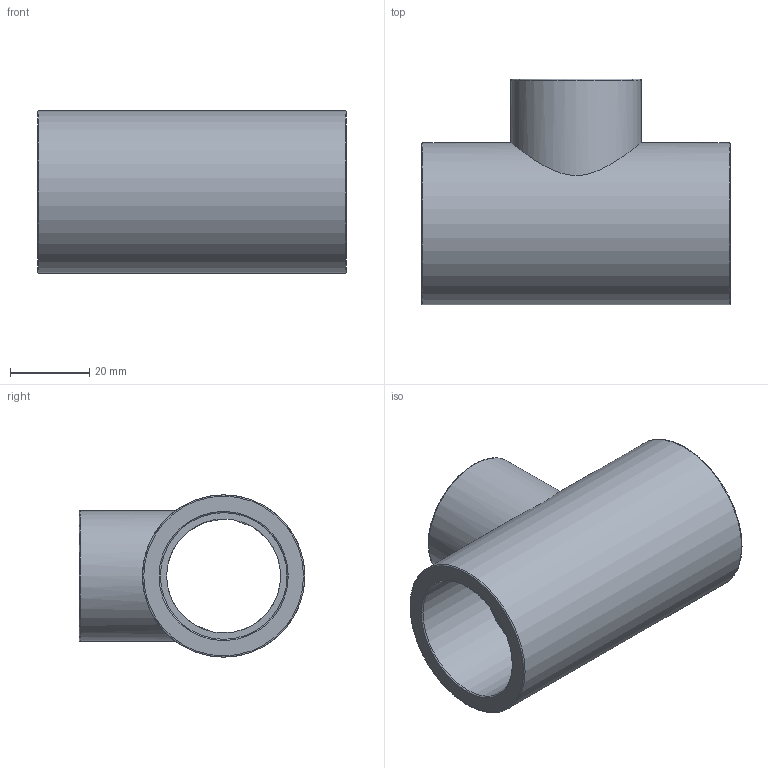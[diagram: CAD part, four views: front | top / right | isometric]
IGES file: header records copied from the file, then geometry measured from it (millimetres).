
Global section: file name: 051400032025.ipt; native system: Autodesk Inventor 2015; preprocessor: unknown; author: KIM; date: 20171207.165212; units: millimetre
Bounding box: 78 x 57 x 41 mm (x, y, z)
Volume: 49643.1 mm3; surface area: 21818.6 mm2
Topology: 1 solids, 1 shells, 19 faces, 58 edges, 44 vertices
Faces by surface type: revolution 11, plane 6, cylinder 2
Full cylindrical faces by diameter (mm): 33 x1, 41 x1
